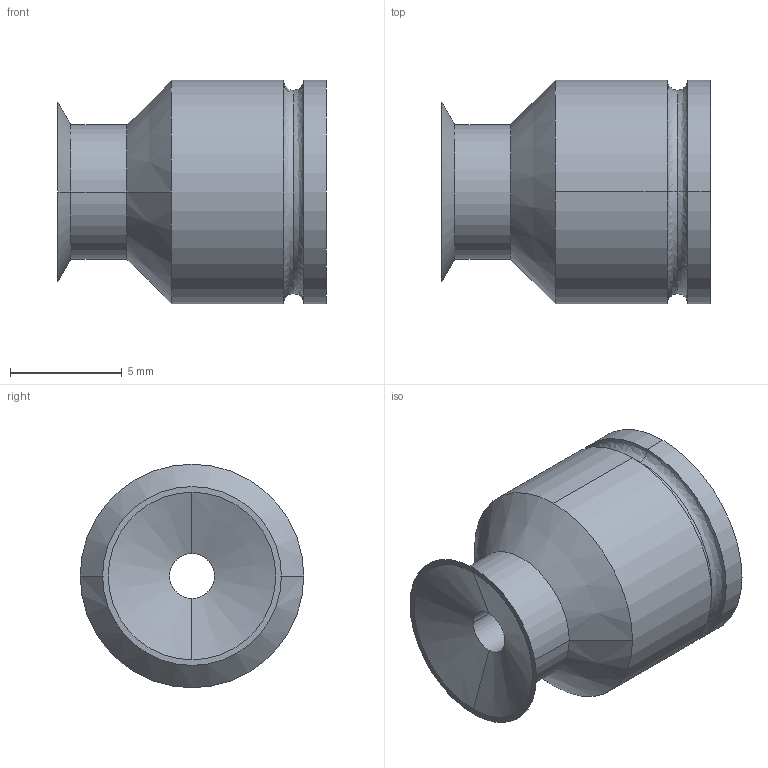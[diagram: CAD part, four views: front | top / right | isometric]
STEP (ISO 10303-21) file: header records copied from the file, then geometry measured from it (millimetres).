
FILE_DESCRIPTION (( 'STEP AP214' ), '1' );
FILE_NAME ('VSH-8R.STEP', '2019-11-14T01:19:24', ( '微软用户' ), ( '微软中国' ), 'SwSTEP 2.0', 'SolidWorks 2016', '' );
FILE_SCHEMA (( 'AUTOMOTIVE_DESIGN' ));
Length unit declared in the file: millimetre
Products named in the file (1): VSH-8R
Bounding box: 12 x 10 x 10 mm (x, y, z)
Volume: 587.9 mm3; surface area: 633.6 mm2
Topology: 1 solids, 1 shells, 26 faces, 56 edges, 34 vertices
Faces by surface type: cylinder 12, cone 6, bspline 4, plane 4
Entity records: 796 total; most frequent: CARTESIAN_POINT 189, DIRECTION 132, ORIENTED_EDGE 112, AXIS2_PLACEMENT_3D 57, EDGE_CURVE 56, VERTEX_POINT 34, CIRCLE 34, EDGE_LOOP 30
